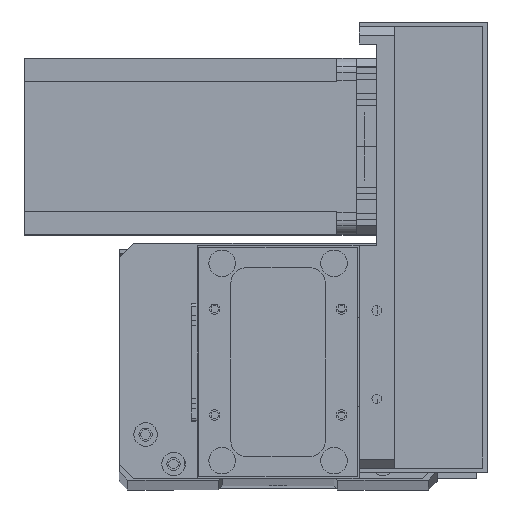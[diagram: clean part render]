
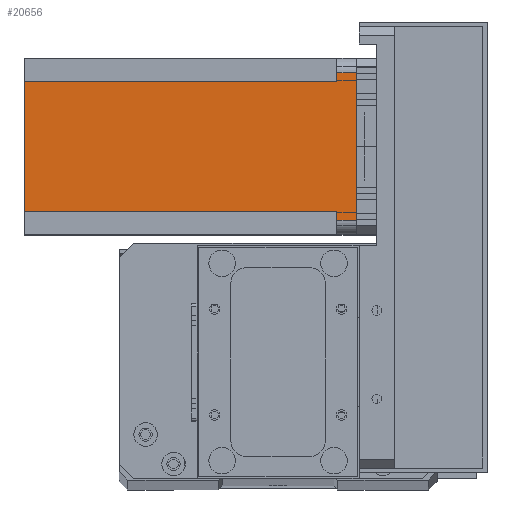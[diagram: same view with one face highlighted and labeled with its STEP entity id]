
A CAD part, top view. The second image highlights one B-rep face of the part: STEP entity #20656.
In plain terms, the highlighted planar face has unit normal (0, 0, 1) as drawn and (0, 1, 0) by its records, which use the part's own axes.
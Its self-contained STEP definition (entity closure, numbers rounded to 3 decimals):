
#442 = VERTEX_POINT ( 'NONE', #12588 ) ;
#1225 = CARTESIAN_POINT ( 'NONE',  ( 52., 60., -112.5 ) ) ;
#2183 = EDGE_LOOP ( 'NONE', ( #3286, #25528, #31984, #15283, #10841, #29268, #25645, #19305 ) ) ;
#2224 = LINE ( 'NONE', #27726, #19900 ) ;
#2564 = AXIS2_PLACEMENT_3D ( 'NONE', #20426, #27966, #12977 ) ;
#3286 = ORIENTED_EDGE ( 'NONE', *, *, #3479, .F. ) ;
#3479 = EDGE_CURVE ( 'NONE', #16678, #11816, #24905, .T. ) ;
#3677 = VECTOR ( 'NONE', #24283, 1000. ) ;
#4349 = EDGE_CURVE ( 'NONE', #15098, #11816, #23673, .T. ) ;
#4441 = CARTESIAN_POINT ( 'NONE',  ( 5., 60., -6.5 ) ) ;
#5190 = DIRECTION ( 'NONE',  ( -1., 0., 0. ) ) ;
#5232 = CARTESIAN_POINT ( 'NONE',  ( 52., 60., -112.5 ) ) ;
#5473 = LINE ( 'NONE', #5232, #11342 ) ;
#5506 = CARTESIAN_POINT ( 'NONE',  ( 5., 60., 0. ) ) ;
#6265 = VERTEX_POINT ( 'NONE', #8246 ) ;
#6344 = CARTESIAN_POINT ( 'NONE',  ( 0., 60., -112.5 ) ) ;
#7258 = FACE_OUTER_BOUND ( 'NONE', #2183, .T. ) ;
#7292 = VECTOR ( 'NONE', #23859, 1000. ) ;
#7358 = CARTESIAN_POINT ( 'NONE',  ( 52., 60., -6.5 ) ) ;
#7907 = LINE ( 'NONE', #23564, #14571 ) ;
#8070 = CARTESIAN_POINT ( 'NONE',  ( 0., 60., 0. ) ) ;
#8186 = DIRECTION ( 'NONE',  ( -1., 0., 0. ) ) ;
#8246 = CARTESIAN_POINT ( 'NONE',  ( 8., 60., -6.5 ) ) ;
#8274 = EDGE_CURVE ( 'NONE', #16272, #27062, #5473, .T. ) ;
#8942 = VECTOR ( 'NONE', #21748, 1000. ) ;
#9291 = CARTESIAN_POINT ( 'NONE',  ( 5., 60., -112.5 ) ) ;
#10487 = PLANE ( 'NONE',  #2564 ) ;
#10789 = EDGE_CURVE ( 'NONE', #6265, #442, #17184, .T. ) ;
#10841 = ORIENTED_EDGE ( 'NONE', *, *, #24781, .T. ) ;
#11342 = VECTOR ( 'NONE', #22773, 1000. ) ;
#11816 = VERTEX_POINT ( 'NONE', #5506 ) ;
#12588 = CARTESIAN_POINT ( 'NONE',  ( 8., 60., -112.5 ) ) ;
#12977 = DIRECTION ( 'NONE',  ( 0., 0., 1. ) ) ;
#13192 = LINE ( 'NONE', #7358, #18300 ) ;
#13944 = LINE ( 'NONE', #6344, #7292 ) ;
#14178 = CARTESIAN_POINT ( 'NONE',  ( 8., 60., -112.5 ) ) ;
#14571 = VECTOR ( 'NONE', #26178, 1000. ) ;
#15098 = VERTEX_POINT ( 'NONE', #4441 ) ;
#15283 = ORIENTED_EDGE ( 'NONE', *, *, #8274, .F. ) ;
#16272 = VERTEX_POINT ( 'NONE', #1225 ) ;
#16678 = VERTEX_POINT ( 'NONE', #27826 ) ;
#17184 = LINE ( 'NONE', #14178, #8942 ) ;
#17456 = VECTOR ( 'NONE', #8186, 1000. ) ;
#18068 = VERTEX_POINT ( 'NONE', #28644 ) ;
#18300 = VECTOR ( 'NONE', #27272, 1000. ) ;
#19305 = ORIENTED_EDGE ( 'NONE', *, *, #4349, .T. ) ;
#19900 = VECTOR ( 'NONE', #5190, 1000. ) ;
#20426 = CARTESIAN_POINT ( 'NONE',  ( 0., 60., -112.5 ) ) ;
#20656 = ADVANCED_FACE ( 'NONE', ( #7258 ), #10487, .T. ) ;
#21748 = DIRECTION ( 'NONE',  ( 0., 0., -1. ) ) ;
#22773 = DIRECTION ( 'NONE',  ( 0., 0., 1. ) ) ;
#23564 = CARTESIAN_POINT ( 'NONE',  ( 55., 60., -112.5 ) ) ;
#23673 = LINE ( 'NONE', #9291, #3677 ) ;
#23842 = EDGE_CURVE ( 'NONE', #6265, #15098, #2224, .T. ) ;
#23859 = DIRECTION ( 'NONE',  ( -1., 0., 0. ) ) ;
#24283 = DIRECTION ( 'NONE',  ( 0., 0., 1. ) ) ;
#24388 = EDGE_CURVE ( 'NONE', #27062, #18068, #13192, .T. ) ;
#24781 = EDGE_CURVE ( 'NONE', #16272, #442, #13944, .T. ) ;
#24905 = LINE ( 'NONE', #8070, #17456 ) ;
#25528 = ORIENTED_EDGE ( 'NONE', *, *, #27065, .T. ) ;
#25645 = ORIENTED_EDGE ( 'NONE', *, *, #23842, .T. ) ;
#26063 = CARTESIAN_POINT ( 'NONE',  ( 52., 60., -6.5 ) ) ;
#26178 = DIRECTION ( 'NONE',  ( 0., 0., -1. ) ) ;
#27062 = VERTEX_POINT ( 'NONE', #26063 ) ;
#27065 = EDGE_CURVE ( 'NONE', #16678, #18068, #7907, .T. ) ;
#27272 = DIRECTION ( 'NONE',  ( 1., 0., 0. ) ) ;
#27726 = CARTESIAN_POINT ( 'NONE',  ( 8., 60., -6.5 ) ) ;
#27826 = CARTESIAN_POINT ( 'NONE',  ( 55., 60., 0. ) ) ;
#27966 = DIRECTION ( 'NONE',  ( 0., 1., 0. ) ) ;
#28644 = CARTESIAN_POINT ( 'NONE',  ( 55., 60., -6.5 ) ) ;
#29268 = ORIENTED_EDGE ( 'NONE', *, *, #10789, .F. ) ;
#31984 = ORIENTED_EDGE ( 'NONE', *, *, #24388, .F. ) ;
